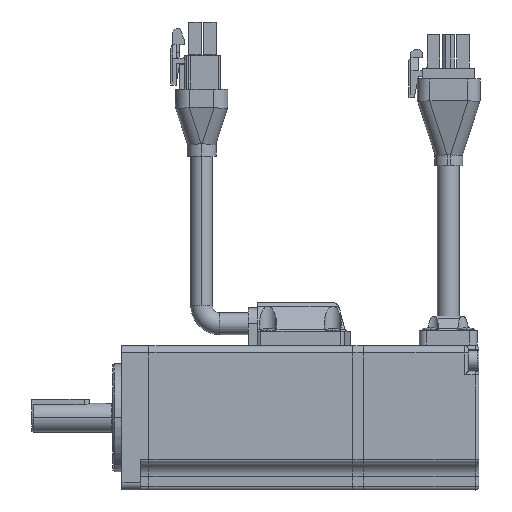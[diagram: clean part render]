
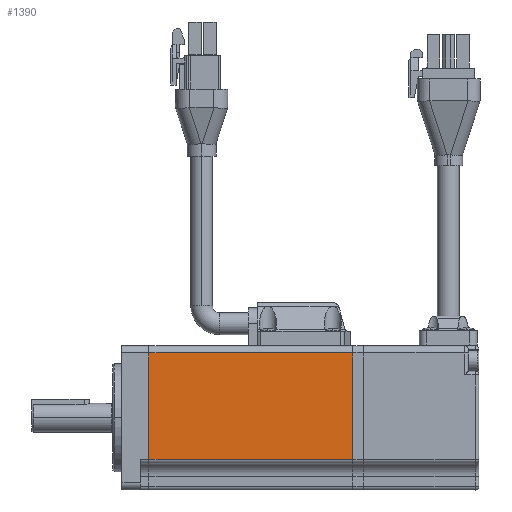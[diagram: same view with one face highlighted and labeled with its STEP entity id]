
A CAD part, left-side view. The second image highlights one B-rep face of the part: STEP entity #1390.
In plain terms, the highlighted planar face has unit normal (1, 0, 0).
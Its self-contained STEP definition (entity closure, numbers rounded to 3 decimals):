
#202=DIRECTION('',(0.,-1.,0.));
#203=VECTOR('',#202,56.5);
#204=CARTESIAN_POINT('',(-20.,56.5,18.));
#205=LINE('',#204,#203);
#210=DIRECTION('',(0.,0.,1.));
#211=VECTOR('',#210,29.5);
#212=CARTESIAN_POINT('',(-20.,56.5,-11.5));
#213=LINE('',#212,#211);
#214=DIRECTION('',(0.,0.,-1.));
#215=VECTOR('',#214,29.5);
#216=CARTESIAN_POINT('',(-20.,0.,18.));
#217=LINE('',#216,#215);
#222=DIRECTION('',(0.,1.,0.));
#223=VECTOR('',#222,56.5);
#224=CARTESIAN_POINT('',(-20.,0.,-11.5));
#225=LINE('',#224,#223);
#1082=CARTESIAN_POINT('',(-20.,0.,18.));
#1083=VERTEX_POINT('',#1082);
#1084=CARTESIAN_POINT('',(-20.,0.,-11.5));
#1085=VERTEX_POINT('',#1084);
#1100=CARTESIAN_POINT('',(-20.,56.5,-11.5));
#1101=VERTEX_POINT('',#1100);
#1102=CARTESIAN_POINT('',(-20.,56.5,18.));
#1103=VERTEX_POINT('',#1102);
#1377=CARTESIAN_POINT('',(-20.,28.25,3.25));
#1378=DIRECTION('',(1.,0.,0.));
#1379=DIRECTION('',(0.,0.,-1.));
#1380=AXIS2_PLACEMENT_3D('',#1377,#1378,#1379);
#1381=PLANE('',#1380);
#1382=ORIENTED_EDGE('',*,*,#1369,.F.);
#1383=ORIENTED_EDGE('',*,*,#1167,.F.);
#1385=ORIENTED_EDGE('',*,*,#1384,.F.);
#1387=ORIENTED_EDGE('',*,*,#1386,.F.);
#1388=EDGE_LOOP('',(#1382,#1383,#1385,#1387));
#1389=FACE_OUTER_BOUND('',#1388,.F.);
#1390=ADVANCED_FACE('',(#1389),#1381,.T.);
#1167=EDGE_CURVE('',#1101,#1103,#213,.T.);
#1369=EDGE_CURVE('',#1103,#1083,#205,.T.);
#1384=EDGE_CURVE('',#1085,#1101,#225,.T.);
#1386=EDGE_CURVE('',#1083,#1085,#217,.T.);
